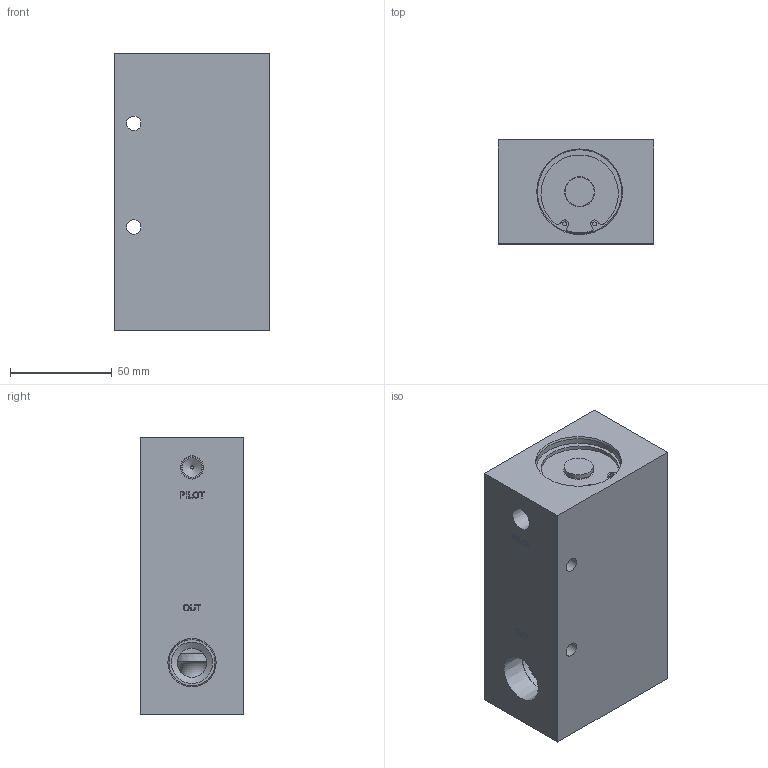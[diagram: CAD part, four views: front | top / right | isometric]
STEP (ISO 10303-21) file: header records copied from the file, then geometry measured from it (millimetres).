
FILE_DESCRIPTION(/* description */ (''),/* implementation_level */ '2;1');
FILE_NAME(/* name */ 'L:\ALADCO\Advertising\3D Content\Valves\Step Files - 2014-11-19 thru Present\32750X.stp',/* time_stamp */ '2014-11-19T14:35:35-06:00',/* author */ ('dmatz'),/* organization */ ('Aladdin Eng. & Manf. Inc.'),/* preprocessor_version */ 'ST-DEVELOPER v15.2',/* originating_system */ 'Autodesk Inventor 2014',/* authorisation */ '0 in^3');
FILE_SCHEMA (('AUTOMOTIVE_DESIGN { 1 0 10303 214 3 1 1 }'));
Length unit declared in the file: inch
Products named in the file (9): 311045; 311050; 1.312-1.25; 311058; 321016; 1.625-1.562; 311057; 311066; 327501
Bounding box: 76.2 x 50.8 x 135.88 mm (x, y, z)
Volume: 419318.9 mm3; surface area: 71220 mm2
Topology: 6 solids, 6 shells, 222 faces, 510 edges, 337 vertices
Faces by surface type: plane 113, cylinder 52, bspline 26, cone 19, torus 12
Full cylindrical faces by diameter (mm): 1.499 x1, 1.93 x4, 3.302 x1, 6.858 x1, 7.112 x2, 10.719 x1, 11.1 x1, 14.224 x2, 14.249 x1, 14.287 x2, 17.501 x1, 18.034 x1, 19.05 x2, 20.015 x1, 20.241 x2, 22.631 x2, 29.21 x1, 31.75 x1, 33.274 x2, 33.325 x3, 35.458 x1, 37.16 x1, 38.1 x1, 41.224 x2, 41.275 x2, 43.815 x1
Entity records: 6574 total; most frequent: CARTESIAN_POINT 1635, DIRECTION 912, ORIENTED_EDGE 828, EDGE_CURVE 414, EDGE_LOOP 352, AXIS2_PLACEMENT_3D 344, VERTEX_POINT 312, LINE 224
